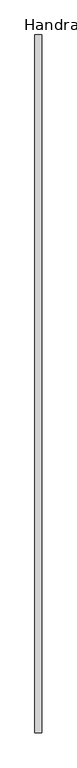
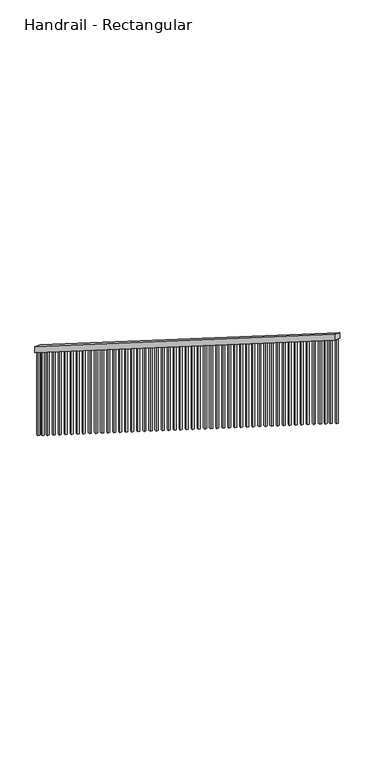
"""IFC4 building model written with IfcOpenShell, lengths in millimetres: railing geometry, Handrail - Rectangular."""

from ifc_helpers import new_model, si_unit, frame, origin, place, context, project, spatial, polyline, outline, extrude, source, transform, mapped, element, save


def handrail_rectangular_83285e33(model_context):
    return source(origin(), model_context, "Body", "SweptSolid", [
        extrude(outline(polyline([(56940.686508, -2261.9368421), (56940.686508, -2322.0204219), (51911.486508, 854.3164202), (51911.486508, 914.4), (56940.686508, -2261.9368421)])), frame((-3925.3747339, 0.0, 0.0), z_axis=(1.0, 0.0, 0.0), x_axis=(0.0, 1.0, 0.0)), (0.0, 0.0, 1.0), 50.8),
        extrude(outline(polyline([(51930.536508, -6.0157895), (51911.486508, -6.0157895), (51911.486508, 854.3164202), (51930.536508, 842.2848412), (51930.536508, -6.0157895)])), frame((-3909.4997339, 0.0, 0.0), z_axis=(1.0, 0.0, 0.0), x_axis=(0.0, 1.0, 0.0)), (0.0, 0.0, 1.0), 19.05),
        extrude(outline(polyline([(52032.136508, -70.1842105), (52013.086508, -70.1842105), (52013.086508, 790.1479991), (52032.136508, 778.1164202), (52032.136508, -70.1842105)])), frame((-3909.4997339, 0.0, 0.0), z_axis=(1.0, 0.0, 0.0), x_axis=(0.0, 1.0, 0.0)), (0.0, 0.0, 1.0), 19.05),
        extrude(outline(polyline([(52111.511508, -120.3157895), (52092.461508, -120.3157895), (52092.461508, 740.0164202), (52111.511508, 727.9848412), (52111.511508, -120.3157895)])), frame((-3909.4997339, 0.0, 0.0), z_axis=(1.0, 0.0, 0.0), x_axis=(0.0, 1.0, 0.0)), (0.0, 0.0, 1.0), 19.05),
        extrude(outline(polyline([(52209.936508, -182.4789474), (52190.886508, -182.4789474), (52190.886508, 677.8532623), (52209.936508, 665.8216833), (52209.936508, -182.4789474)])), frame((-3909.4997339, 0.0, 0.0), z_axis=(1.0, 0.0, 0.0), x_axis=(0.0, 1.0, 0.0)), (0.0, 0.0, 1.0), 19.05),
        extrude(outline(polyline([(52311.536508, -246.6473684), (52292.486508, -246.6473684), (52292.486508, 613.6848412), (52311.536508, 601.6532623), (52311.536508, -246.6473684)])), frame((-3909.4997339, 0.0, 0.0), z_axis=(1.0, 0.0, 0.0), x_axis=(0.0, 1.0, 0.0)), (0.0, 0.0, 1.0), 19.05),
        extrude(outline(polyline([(52413.136508, -310.8157895), (52394.086508, -310.8157895), (52394.086508, 549.5164202), (52413.136508, 537.4848412), (52413.136508, -310.8157895)])), frame((-3909.4997339, 0.0, 0.0), z_axis=(1.0, 0.0, 0.0), x_axis=(0.0, 1.0, 0.0)), (0.0, 0.0, 1.0), 19.05),
        extrude(outline(polyline([(52514.736508, -374.9842105), (52495.686508, -374.9842105), (52495.686508, 485.3479991), (52514.736508, 473.3164202), (52514.736508, -374.9842105)])), frame((-3909.4997339, 0.0, 0.0), z_axis=(1.0, 0.0, 0.0), x_axis=(0.0, 1.0, 0.0)), (0.0, 0.0, 1.0), 19.05),
        extrude(outline(polyline([(52616.336508, -439.1526316), (52597.286508, -439.1526316), (52597.286508, 421.1795781), (52616.336508, 409.1479991), (52616.336508, -439.1526316)])), frame((-3909.4997339, 0.0, 0.0), z_axis=(1.0, 0.0, 0.0), x_axis=(0.0, 1.0, 0.0)), (0.0, 0.0, 1.0), 19.05),
        extrude(outline(polyline([(52717.936508, -503.3210526), (52698.886508, -503.3210526), (52698.886508, 357.011157), (52717.936508, 344.9795781), (52717.936508, -503.3210526)])), frame((-3909.4997339, 0.0, 0.0), z_axis=(1.0, 0.0, 0.0), x_axis=(0.0, 1.0, 0.0)), (0.0, 0.0, 1.0), 19.05),
        extrude(outline(polyline([(52819.536508, -567.4894737), (52800.486508, -567.4894737), (52800.486508, 292.842736), (52819.536508, 280.811157), (52819.536508, -567.4894737)])), frame((-3909.4997339, 0.0, 0.0), z_axis=(1.0, 0.0, 0.0), x_axis=(0.0, 1.0, 0.0)), (0.0, 0.0, 1.0), 19.05),
        extrude(outline(polyline([(52921.136508, -631.6578947), (52902.086508, -631.6578947), (52902.086508, 228.6743149), (52921.136508, 216.642736), (52921.136508, -631.6578947)])), frame((-3909.4997339, 0.0, 0.0), z_axis=(1.0, 0.0, 0.0), x_axis=(0.0, 1.0, 0.0)), (0.0, 0.0, 1.0), 19.05),
        extrude(outline(polyline([(53022.736508, -695.8263158), (53003.686508, -695.8263158), (53003.686508, 164.5058939), (53022.736508, 152.4743149), (53022.736508, -695.8263158)])), frame((-3909.4997339, 0.0, 0.0), z_axis=(1.0, 0.0, 0.0), x_axis=(0.0, 1.0, 0.0)), (0.0, 0.0, 1.0), 19.05),
        extrude(outline(polyline([(53124.336508, -759.9947368), (53105.286508, -759.9947368), (53105.286508, 100.3374728), (53124.336508, 88.3058939), (53124.336508, -759.9947368)])), frame((-3909.4997339, 0.0, 0.0), z_axis=(1.0, 0.0, 0.0), x_axis=(0.0, 1.0, 0.0)), (0.0, 0.0, 1.0), 19.05),
        extrude(outline(polyline([(53225.936508, -824.1631579), (53206.886508, -824.1631579), (53206.886508, 36.1690517), (53225.936508, 24.1374728), (53225.936508, -824.1631579)])), frame((-3909.4997339, 0.0, 0.0), z_axis=(1.0, 0.0, 0.0), x_axis=(0.0, 1.0, 0.0)), (0.0, 0.0, 1.0), 19.05),
        extrude(outline(polyline([(53327.536508, -888.3315789), (53308.486508, -888.3315789), (53308.486508, -27.9993693), (53327.536508, -40.0309483), (53327.536508, -888.3315789)])), frame((-3909.4997339, 0.0, 0.0), z_axis=(1.0, 0.0, 0.0), x_axis=(0.0, 1.0, 0.0)), (0.0, 0.0, 1.0), 19.05),
        extrude(outline(polyline([(53429.136508, -952.5), (53410.086508, -952.5), (53410.086508, -92.1677904), (53429.136508, -104.1993693), (53429.136508, -952.5)])), frame((-3909.4997339, 0.0, 0.0), z_axis=(1.0, 0.0, 0.0), x_axis=(0.0, 1.0, 0.0)), (0.0, 0.0, 1.0), 19.05),
        extrude(outline(polyline([(53530.736508, -1016.6684211), (53511.686508, -1016.6684211), (53511.686508, -156.3362114), (53530.736508, -168.3677904), (53530.736508, -1016.6684211)])), frame((-3909.4997339, 0.0, 0.0), z_axis=(1.0, 0.0, 0.0), x_axis=(0.0, 1.0, 0.0)), (0.0, 0.0, 1.0), 19.05),
        extrude(outline(polyline([(53632.336508, -1080.8368421), (53613.286508, -1080.8368421), (53613.286508, -220.5046325), (53632.336508, -232.5362114), (53632.336508, -1080.8368421)])), frame((-3909.4997339, 0.0, 0.0), z_axis=(1.0, 0.0, 0.0), x_axis=(0.0, 1.0, 0.0)), (0.0, 0.0, 1.0), 19.05),
        extrude(outline(polyline([(53733.936508, -1145.0052632), (53714.886508, -1145.0052632), (53714.886508, -284.6730535), (53733.936508, -296.7046325), (53733.936508, -1145.0052632)])), frame((-3909.4997339, 0.0, 0.0), z_axis=(1.0, 0.0, 0.0), x_axis=(0.0, 1.0, 0.0)), (0.0, 0.0, 1.0), 19.05),
        extrude(outline(polyline([(53835.536508, -1209.1736842), (53816.486508, -1209.1736842), (53816.486508, -348.8414746), (53835.536508, -360.8730535), (53835.536508, -1209.1736842)])), frame((-3909.4997339, 0.0, 0.0), z_axis=(1.0, 0.0, 0.0), x_axis=(0.0, 1.0, 0.0)), (0.0, 0.0, 1.0), 19.05),
        extrude(outline(polyline([(53937.136508, -1273.3421053), (53918.086508, -1273.3421053), (53918.086508, -413.0098956), (53937.136508, -425.0414746), (53937.136508, -1273.3421053)])), frame((-3909.4997339, 0.0, 0.0), z_axis=(1.0, 0.0, 0.0), x_axis=(0.0, 1.0, 0.0)), (0.0, 0.0, 1.0), 19.05),
        extrude(outline(polyline([(54038.736508, -1337.5105263), (54019.686508, -1337.5105263), (54019.686508, -477.1783167), (54038.736508, -489.2098956), (54038.736508, -1337.5105263)])), frame((-3909.4997339, 0.0, 0.0), z_axis=(1.0, 0.0, 0.0), x_axis=(0.0, 1.0, 0.0)), (0.0, 0.0, 1.0), 19.05),
        extrude(outline(polyline([(54140.336508, -1401.6789474), (54121.286508, -1401.6789474), (54121.286508, -541.3467377), (54140.336508, -553.3783167), (54140.336508, -1401.6789474)])), frame((-3909.4997339, 0.0, 0.0), z_axis=(1.0, 0.0, 0.0), x_axis=(0.0, 1.0, 0.0)), (0.0, 0.0, 1.0), 19.05),
        extrude(outline(polyline([(54241.936508, -1465.8473684), (54222.886508, -1465.8473684), (54222.886508, -605.5151588), (54241.936508, -617.5467377), (54241.936508, -1465.8473684)])), frame((-3909.4997339, 0.0, 0.0), z_axis=(1.0, 0.0, 0.0), x_axis=(0.0, 1.0, 0.0)), (0.0, 0.0, 1.0), 19.05),
        extrude(outline(polyline([(54343.536508, -1530.0157895), (54324.486508, -1530.0157895), (54324.486508, -669.6835798), (54343.536508, -681.7151588), (54343.536508, -1530.0157895)])), frame((-3909.4997339, 0.0, 0.0), z_axis=(1.0, 0.0, 0.0), x_axis=(0.0, 1.0, 0.0)), (0.0, 0.0, 1.0), 19.05),
        extrude(outline(polyline([(54445.136508, -1594.1842105), (54426.086508, -1594.1842105), (54426.086508, -733.8520009), (54445.136508, -745.8835798), (54445.136508, -1594.1842105)])), frame((-3909.4997339, 0.0, 0.0), z_axis=(1.0, 0.0, 0.0), x_axis=(0.0, 1.0, 0.0)), (0.0, 0.0, 1.0), 19.05),
        extrude(outline(polyline([(54546.736508, -1658.3526316), (54527.686508, -1658.3526316), (54527.686508, -798.0204219), (54546.736508, -810.0520009), (54546.736508, -1658.3526316)])), frame((-3909.4997339, 0.0, 0.0), z_axis=(1.0, 0.0, 0.0), x_axis=(0.0, 1.0, 0.0)), (0.0, 0.0, 1.0), 19.05),
        extrude(outline(polyline([(54648.336508, -1722.5210526), (54629.286508, -1722.5210526), (54629.286508, -862.188843), (54648.336508, -874.2204219), (54648.336508, -1722.5210526)])), frame((-3909.4997339, 0.0, 0.0), z_axis=(1.0, 0.0, 0.0), x_axis=(0.0, 1.0, 0.0)), (0.0, 0.0, 1.0), 19.05),
        extrude(outline(polyline([(54749.936508, -1786.6894737), (54730.886508, -1786.6894737), (54730.886508, -926.357264), (54749.936508, -938.388843), (54749.936508, -1786.6894737)])), frame((-3909.4997339, 0.0, 0.0), z_axis=(1.0, 0.0, 0.0), x_axis=(0.0, 1.0, 0.0)), (0.0, 0.0, 1.0), 19.05),
        extrude(outline(polyline([(54851.536508, -1850.8578947), (54832.486508, -1850.8578947), (54832.486508, -990.5256851), (54851.536508, -1002.557264), (54851.536508, -1850.8578947)])), frame((-3909.4997339, 0.0, 0.0), z_axis=(1.0, 0.0, 0.0), x_axis=(0.0, 1.0, 0.0)), (0.0, 0.0, 1.0), 19.05),
        extrude(outline(polyline([(54953.136508, -1915.0263158), (54934.086508, -1915.0263158), (54934.086508, -1054.6941061), (54953.136508, -1066.7256851), (54953.136508, -1915.0263158)])), frame((-3909.4997339, 0.0, 0.0), z_axis=(1.0, 0.0, 0.0), x_axis=(0.0, 1.0, 0.0)), (0.0, 0.0, 1.0), 19.05),
        extrude(outline(polyline([(55054.736508, -1979.1947368), (55035.686508, -1979.1947368), (55035.686508, -1118.8625272), (55054.736508, -1130.8941061), (55054.736508, -1979.1947368)])), frame((-3909.4997339, 0.0, 0.0), z_axis=(1.0, 0.0, 0.0), x_axis=(0.0, 1.0, 0.0)), (0.0, 0.0, 1.0), 19.05),
        extrude(outline(polyline([(55156.336508, -2043.3631579), (55137.286508, -2043.3631579), (55137.286508, -1183.0309483), (55156.336508, -1195.0625272), (55156.336508, -2043.3631579)])), frame((-3909.4997339, 0.0, 0.0), z_axis=(1.0, 0.0, 0.0), x_axis=(0.0, 1.0, 0.0)), (0.0, 0.0, 1.0), 19.05),
        extrude(outline(polyline([(55257.936508, -2107.5315789), (55238.886508, -2107.5315789), (55238.886508, -1247.1993693), (55257.936508, -1259.2309483), (55257.936508, -2107.5315789)])), frame((-3909.4997339, 0.0, 0.0), z_axis=(1.0, 0.0, 0.0), x_axis=(0.0, 1.0, 0.0)), (0.0, 0.0, 1.0), 19.05),
        extrude(outline(polyline([(55359.536508, -2171.7), (55340.486508, -2171.7), (55340.486508, -1311.3677904), (55359.536508, -1323.3993693), (55359.536508, -2171.7)])), frame((-3909.4997339, 0.0, 0.0), z_axis=(1.0, 0.0, 0.0), x_axis=(0.0, 1.0, 0.0)), (0.0, 0.0, 1.0), 19.05),
        extrude(outline(polyline([(55461.136508, -2235.8684211), (55442.086508, -2235.8684211), (55442.086508, -1375.5362114), (55461.136508, -1387.5677904), (55461.136508, -2235.8684211)])), frame((-3909.4997339, 0.0, 0.0), z_axis=(1.0, 0.0, 0.0), x_axis=(0.0, 1.0, 0.0)), (0.0, 0.0, 1.0), 19.05),
        extrude(outline(polyline([(55562.736508, -2300.0368421), (55543.686508, -2300.0368421), (55543.686508, -1439.7046325), (55562.736508, -1451.7362114), (55562.736508, -2300.0368421)])), frame((-3909.4997339, 0.0, 0.0), z_axis=(1.0, 0.0, 0.0), x_axis=(0.0, 1.0, 0.0)), (0.0, 0.0, 1.0), 19.05),
        extrude(outline(polyline([(55664.336508, -2364.2052632), (55645.286508, -2364.2052632), (55645.286508, -1503.8730535), (55664.336508, -1515.9046325), (55664.336508, -2364.2052632)])), frame((-3909.4997339, 0.0, 0.0), z_axis=(1.0, 0.0, 0.0), x_axis=(0.0, 1.0, 0.0)), (0.0, 0.0, 1.0), 19.05),
        extrude(outline(polyline([(55765.936508, -2428.3736842), (55746.886508, -2428.3736842), (55746.886508, -1568.0414746), (55765.936508, -1580.0730535), (55765.936508, -2428.3736842)])), frame((-3909.4997339, 0.0, 0.0), z_axis=(1.0, 0.0, 0.0), x_axis=(0.0, 1.0, 0.0)), (0.0, 0.0, 1.0), 19.05),
        extrude(outline(polyline([(55867.536508, -2492.5421053), (55848.486508, -2492.5421053), (55848.486508, -1632.2098956), (55867.536508, -1644.2414746), (55867.536508, -2492.5421053)])), frame((-3909.4997339, 0.0, 0.0), z_axis=(1.0, 0.0, 0.0), x_axis=(0.0, 1.0, 0.0)), (0.0, 0.0, 1.0), 19.05),
        extrude(outline(polyline([(55969.136508, -2556.7105263), (55950.086508, -2556.7105263), (55950.086508, -1696.3783167), (55969.136508, -1708.4098956), (55969.136508, -2556.7105263)])), frame((-3909.4997339, 0.0, 0.0), z_axis=(1.0, 0.0, 0.0), x_axis=(0.0, 1.0, 0.0)), (0.0, 0.0, 1.0), 19.05),
        extrude(outline(polyline([(56070.736508, -2620.8789474), (56051.686508, -2620.8789474), (56051.686508, -1760.5467377), (56070.736508, -1772.5783167), (56070.736508, -2620.8789474)])), frame((-3909.4997339, 0.0, 0.0), z_axis=(1.0, 0.0, 0.0), x_axis=(0.0, 1.0, 0.0)), (0.0, 0.0, 1.0), 19.05),
        extrude(outline(polyline([(56172.336508, -2685.0473684), (56153.286508, -2685.0473684), (56153.286508, -1824.7151588), (56172.336508, -1836.7467377), (56172.336508, -2685.0473684)])), frame((-3909.4997339, 0.0, 0.0), z_axis=(1.0, 0.0, 0.0), x_axis=(0.0, 1.0, 0.0)), (0.0, 0.0, 1.0), 19.05),
        extrude(outline(polyline([(56273.936508, -2749.2157895), (56254.886508, -2749.2157895), (56254.886508, -1888.8835798), (56273.936508, -1900.9151588), (56273.936508, -2749.2157895)])), frame((-3909.4997339, 0.0, 0.0), z_axis=(1.0, 0.0, 0.0), x_axis=(0.0, 1.0, 0.0)), (0.0, 0.0, 1.0), 19.05),
        extrude(outline(polyline([(56375.536508, -2813.3842105), (56356.486508, -2813.3842105), (56356.486508, -1953.0520009), (56375.536508, -1965.0835798), (56375.536508, -2813.3842105)])), frame((-3909.4997339, 0.0, 0.0), z_axis=(1.0, 0.0, 0.0), x_axis=(0.0, 1.0, 0.0)), (0.0, 0.0, 1.0), 19.05),
        extrude(outline(polyline([(56477.136508, -2877.5526316), (56458.086508, -2877.5526316), (56458.086508, -2017.2204219), (56477.136508, -2029.2520009), (56477.136508, -2877.5526316)])), frame((-3909.4997339, 0.0, 0.0), z_axis=(1.0, 0.0, 0.0), x_axis=(0.0, 1.0, 0.0)), (0.0, 0.0, 1.0), 19.05),
        extrude(outline(polyline([(56578.736508, -2941.7210526), (56559.686508, -2941.7210526), (56559.686508, -2081.388843), (56578.736508, -2093.4204219), (56578.736508, -2941.7210526)])), frame((-3909.4997339, 0.0, 0.0), z_axis=(1.0, 0.0, 0.0), x_axis=(0.0, 1.0, 0.0)), (0.0, 0.0, 1.0), 19.05),
        extrude(outline(polyline([(56680.336508, -3005.8894737), (56661.286508, -3005.8894737), (56661.286508, -2145.557264), (56680.336508, -2157.588843), (56680.336508, -3005.8894737)])), frame((-3909.4997339, 0.0, 0.0), z_axis=(1.0, 0.0, 0.0), x_axis=(0.0, 1.0, 0.0)), (0.0, 0.0, 1.0), 19.05),
        extrude(outline(polyline([(56781.936508, -3070.0578947), (56762.886508, -3070.0578947), (56762.886508, -2209.7256851), (56781.936508, -2221.757264), (56781.936508, -3070.0578947)])), frame((-3909.4997339, 0.0, 0.0), z_axis=(1.0, 0.0, 0.0), x_axis=(0.0, 1.0, 0.0)), (0.0, 0.0, 1.0), 19.05),
        extrude(outline(polyline([(56861.311508, -3120.1894737), (56842.261508, -3120.1894737), (56842.261508, -2259.857264), (56861.311508, -2271.888843), (56861.311508, -3120.1894737)])), frame((-3909.4997339, 0.0, 0.0), z_axis=(1.0, 0.0, 0.0), x_axis=(0.0, 1.0, 0.0)), (0.0, 0.0, 1.0), 19.05),
        extrude(outline(polyline([(56940.686508, -3170.3210526), (56921.636508, -3170.3210526), (56921.636508, -2309.988843), (56940.686508, -2322.0204219), (56940.686508, -3170.3210526)])), frame((-3909.4997339, 0.0, 0.0), z_axis=(1.0, 0.0, 0.0), x_axis=(0.0, 1.0, 0.0)), (0.0, 0.0, 1.0), 19.05),
    ])


if __name__ == "__main__":
    model = new_model("IFC4")
    model_context = context("Model", 3, world=origin())
    ifc_project = project(units=[si_unit("LENGTHUNIT", "METRE", prefix="MILLI")], contexts=[model_context])
    site = spatial("IfcSite", under=ifc_project)
    building = spatial("IfcBuilding", under=site)
    placement = place(None, origin())
    handrail_rectangular_shape = handrail_rectangular_83285e33(model_context)
    element("IfcRailing", 1, ObjectType="Handrail - Rectangular", at=placement, inside=building, context=model_context, shape_type="MappedRepresentation", body=[
        mapped(handrail_rectangular_shape, transform((0.0, 0.0, 0.0), x_axis=(1.0, 0.0, 0.0), y_axis=(0.0, 1.0, 0.0), z_axis=(0.0, 0.0, 1.0))),
    ])
    save(model, "model.ifc")
